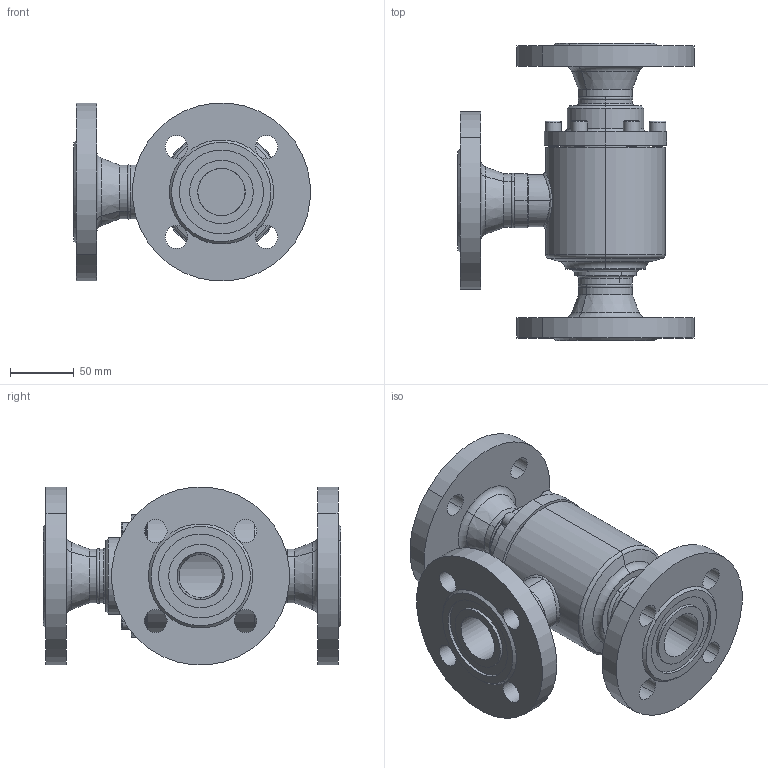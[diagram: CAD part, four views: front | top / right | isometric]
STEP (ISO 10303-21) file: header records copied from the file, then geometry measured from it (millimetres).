
FILE_DESCRIPTION (( 'STEP AP214' ), '1' );
FILE_NAME ('TR47020C13-DN32_DIN_PS40.STEP', '2005-08-10T11:30:21', ( 'Herr Grams' ), ( 'AWP GmbH' ), 'SwSTEP 2.0', 'SolidWorks 2002296', '' );
FILE_SCHEMA (( 'AUTOMOTIVE_DESIGN' ));
Length unit declared in the file: millimetre
Products named in the file (15): TR47020C13-DN32_DIN_PS40; Flansch-DIN-Nut_PS40_DIN-Flansch-DN032_PS40-Nut; TR47000C13-DN32_R1_PS40_Standard; Führungsring47050-11-DN15-40_Standard; Deckel47000E13_DN32_PS40_R1_Standard; Zylinderschraube-DIN912-M 8x22_M 8x 22; Geh-kpl47000E13-DN32_PS40_R1_Standard; Geh47000E14_DN32-40_PS40_R1_Standard; Kehlnaht13-2_Standard; RohrstutzA47000E13-DN32_PS40_R1_Standard; Stutzenteil47000E13_DN32_PS40_R1_Standard; bead13-3_Standard; TR32-1_Standard; TR32-2_Standard; TR32-3_Standard
Assembly tree (21 placements, depth 4):
  TR47020C13-DN32_DIN_PS40
    TR47000C13-DN32_R1_PS40_Standard
      Geh-kpl47000E13-DN32_PS40_R1_Standard
        RohrstutzA47000E13-DN32_PS40_R1_Standard
        Kehlnaht13-2_Standard
        Geh47000E14_DN32-40_PS40_R1_Standard
        Stutzenteil47000E13_DN32_PS40_R1_Standard
        bead13-3_Standard
      Deckel47000E13_DN32_PS40_R1_Standard
      Zylinderschraube-DIN912-M 8x22_M 8x 22  x6
      Führungsring47050-11-DN15-40_Standard
    TR32-3_Standard
    TR32-2_Standard
    Flansch-DIN-Nut_PS40_DIN-Flansch-DN032_PS40-Nut  x3
    TR32-1_Standard
Bounding box: 185.73 x 233.5 x 139.47 mm (x, y, z)
Volume: 1176439.2 mm3; surface area: 267616.3 mm2
Topology: 19 solids, 19 shells, 577 faces, 1464 edges, 942 vertices
Faces by surface type: cylinder 352, plane 111, cone 56, torus 32, bspline 26
Entity records: 26074 total; most frequent: CARTESIAN_POINT 19393, ORIENTED_EDGE 1180, DIRECTION 1168, EDGE_CURVE 590, AXIS2_PLACEMENT_3D 489, VERTEX_POINT 374, EDGE_LOOP 308, FACE_OUTER_BOUND 247
